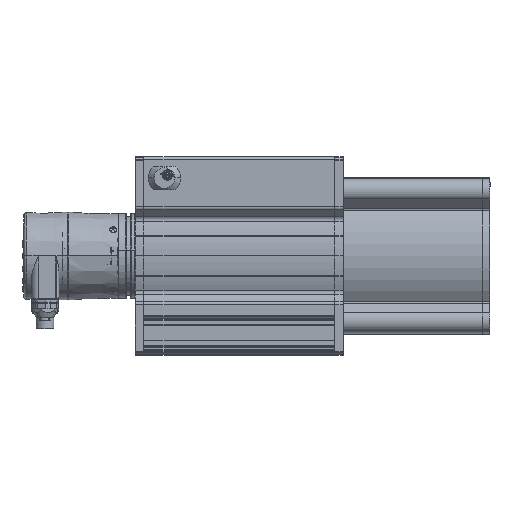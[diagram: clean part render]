
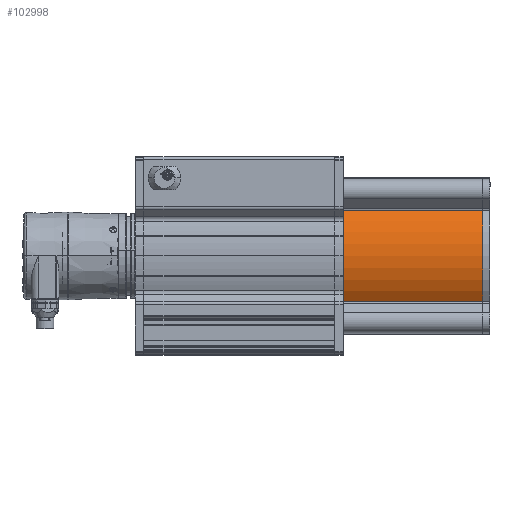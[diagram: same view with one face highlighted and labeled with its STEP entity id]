
A CAD part, top view. The second image highlights one B-rep face of the part: STEP entity #102998.
In plain terms, the highlighted cylindrical face has radius 53.25 mm (diameter 106.5 mm), a partial arc.
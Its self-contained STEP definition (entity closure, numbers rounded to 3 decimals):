
#73905 = CARTESIAN_POINT ( 'NONE',  ( -22.706, 91.749, 17.983 ) ) ;
#73911 = CARTESIAN_POINT ( 'NONE',  ( 72.294, 91.749, 17.983 ) ) ;
#74031 = VECTOR ( 'NONE', #74089, 1000. ) ;
#74032 = CARTESIAN_POINT ( 'NONE',  ( -98.586, 91.749, 17.983 ) ) ;
#74033 = LINE ( 'NONE', #74032, #74031 ) ;
#74063 = CARTESIAN_POINT ( 'NONE',  ( 72.294, 29.979, 17.983 ) ) ;
#74089 = DIRECTION ( 'NONE',  ( -1., 0., 0. ) ) ;
#74116 = CARTESIAN_POINT ( 'NONE',  ( -22.706, 29.979, 17.983 ) ) ;
#74117 = DIRECTION ( 'NONE',  ( 1., 0., 0. ) ) ;
#74118 = VECTOR ( 'NONE', #74117, 1000. ) ;
#74119 = CARTESIAN_POINT ( 'NONE',  ( -98.586, 29.979, 17.983 ) ) ;
#74120 = LINE ( 'NONE', #74119, #74118 ) ;
#74441 = CIRCLE ( 'NONE', #74492, 53.25 ) ;
#74483 = DIRECTION ( 'NONE',  ( 0., -1., 0. ) ) ;
#74484 = DIRECTION ( 'NONE',  ( 1., 0., 0. ) ) ;
#74485 = CARTESIAN_POINT ( 'NONE',  ( 72.294, 60.864, -25.395 ) ) ;
#74486 = AXIS2_PLACEMENT_3D ( 'NONE', #74485, #74484, #74483 ) ;
#74487 = CIRCLE ( 'NONE', #74486, 53.25 ) ;
#74489 = DIRECTION ( 'NONE',  ( 0., 1., 0. ) ) ;
#74490 = DIRECTION ( 'NONE',  ( 1., 0., 0. ) ) ;
#74491 = CARTESIAN_POINT ( 'NONE',  ( -22.706, 60.864, -25.395 ) ) ;
#74492 = AXIS2_PLACEMENT_3D ( 'NONE', #74491, #74490, #74489 ) ;
#74536 = FACE_OUTER_BOUND ( 'NONE', #102999, .T. ) ;
#74578 = DIRECTION ( 'NONE',  ( 0., -1., 0. ) ) ;
#74579 = DIRECTION ( 'NONE',  ( -1., 0., 0. ) ) ;
#74580 = CARTESIAN_POINT ( 'NONE',  ( -98.586, 60.864, -25.395 ) ) ;
#74581 = AXIS2_PLACEMENT_3D ( 'NONE', #74580, #74579, #74578 ) ;
#74585 = CYLINDRICAL_SURFACE ( 'NONE', #74581, 53.25 ) ;
#102808 = VERTEX_POINT ( 'NONE', #73911 ) ;
#102813 = VERTEX_POINT ( 'NONE', #73905 ) ;
#102870 = EDGE_CURVE ( 'NONE', #102808, #102813, #74033, .T. ) ;
#102875 = VERTEX_POINT ( 'NONE', #74063 ) ;
#102878 = EDGE_CURVE ( 'NONE', #102879, #102875, #74120, .T. ) ;
#102879 = VERTEX_POINT ( 'NONE', #74116 ) ;
#102975 = ORIENTED_EDGE ( 'NONE', *, *, #102976, .T. ) ;
#102976 = EDGE_CURVE ( 'NONE', #102813, #102879, #74441, .T. ) ;
#102977 = ORIENTED_EDGE ( 'NONE', *, *, #102878, .T. ) ;
#102978 = ORIENTED_EDGE ( 'NONE', *, *, #102979, .F. ) ;
#102979 = EDGE_CURVE ( 'NONE', #102808, #102875, #74487, .T. ) ;
#102998 = ADVANCED_FACE ( 'NONE', ( #74536 ), #74585, .T. ) ;
#102999 = EDGE_LOOP ( 'NONE', ( #103000, #102975, #102977, #102978 ) ) ;
#103000 = ORIENTED_EDGE ( 'NONE', *, *, #102870, .T. ) ;
